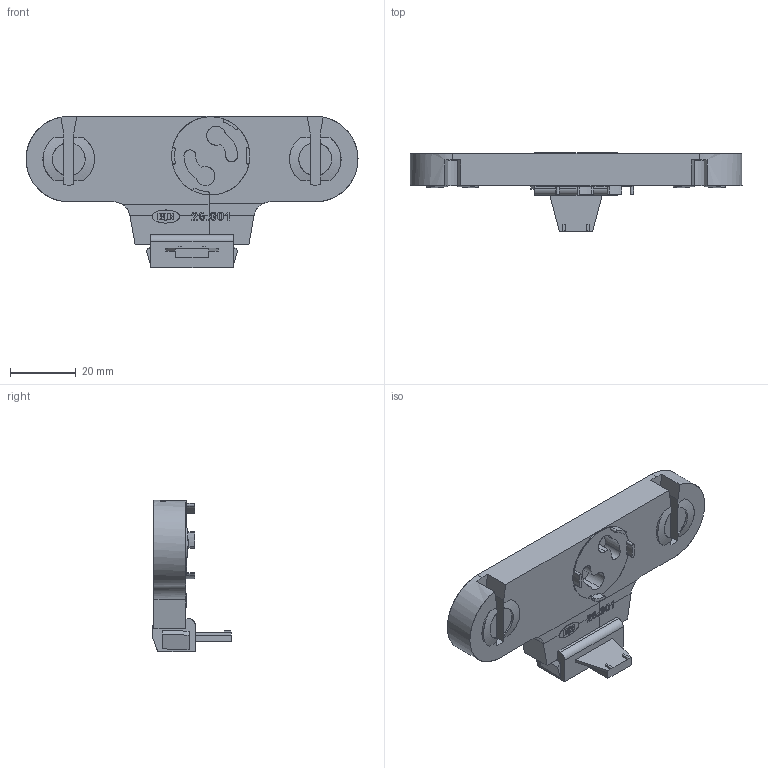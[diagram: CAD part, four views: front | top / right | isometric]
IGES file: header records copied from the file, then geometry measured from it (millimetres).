
Start section: Surface Model. Bezier boundary curves.
Global section: file name: 00IYY0KZ01.igs; native system: TRANS-3D by CORETECH International; preprocessor: 2.1; date: 020503.082940; units: millimetre
Bounding box: 101 x 24 x 46 mm (x, y, z)
Surface area: 11433.2 mm2 (no closed solid volume)
Topology: 0 solids, 0 shells, 403 faces, 2465 edges, 2465 vertices
Faces by surface type: bspline 403
